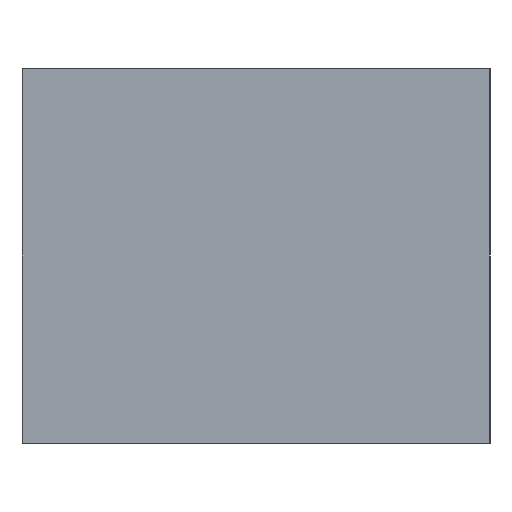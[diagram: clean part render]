
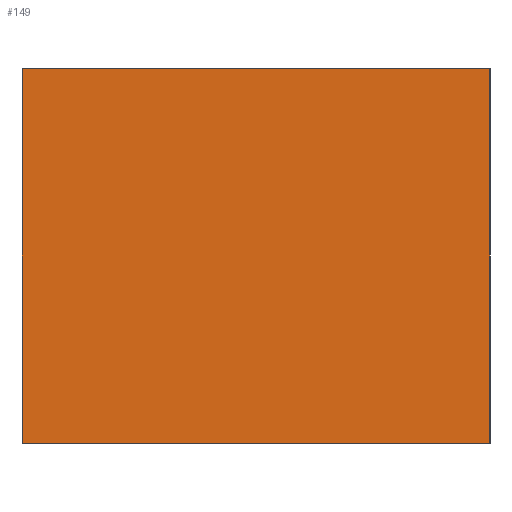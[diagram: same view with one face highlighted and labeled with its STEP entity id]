
A CAD part, left-side view. The second image highlights one B-rep face of the part: STEP entity #149.
In plain terms, the highlighted planar face has unit normal (-1, 0, 0).
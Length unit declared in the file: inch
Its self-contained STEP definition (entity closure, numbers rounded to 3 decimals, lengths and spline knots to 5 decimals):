
#21=PLANE('',#175);
#29=FACE_OUTER_BOUND('',#37,.T.);
#37=EDGE_LOOP('',(#123,#124,#125,#126));
#53=LINE('',#246,#67);
#54=LINE('',#249,#68);
#55=LINE('',#251,#69);
#56=LINE('',#252,#70);
#67=VECTOR('',#205,0.3937);
#68=VECTOR('',#208,0.3937);
#69=VECTOR('',#209,0.3937);
#70=VECTOR('',#210,0.3937);
#85=VERTEX_POINT('',#242);
#86=VERTEX_POINT('',#244);
#87=VERTEX_POINT('',#248);
#88=VERTEX_POINT('',#250);
#101=EDGE_CURVE('',#85,#86,#53,.T.);
#102=EDGE_CURVE('',#85,#87,#54,.T.);
#103=EDGE_CURVE('',#88,#86,#55,.T.);
#104=EDGE_CURVE('',#87,#88,#56,.T.);
#123=ORIENTED_EDGE('',*,*,#102,.F.);
#124=ORIENTED_EDGE('',*,*,#101,.T.);
#125=ORIENTED_EDGE('',*,*,#103,.F.);
#126=ORIENTED_EDGE('',*,*,#104,.F.);
#149=ADVANCED_FACE('',(#29),#21,.T.);
#175=AXIS2_PLACEMENT_3D('',#247,#206,#207);
#205=DIRECTION('',(0.,0.,-1.));
#206=DIRECTION('center_axis',(-1.,0.,0.));
#207=DIRECTION('ref_axis',(0.,1.,0.));
#208=DIRECTION('',(0.,-1.,0.));
#209=DIRECTION('',(0.,1.,0.));
#210=DIRECTION('',(0.,0.,-1.));
#242=CARTESIAN_POINT('',(-0.56963,2.98932,1.875));
#244=CARTESIAN_POINT('',(-0.56963,2.98932,1.675));
#246=CARTESIAN_POINT('',(-0.56963,2.98932,1.875));
#247=CARTESIAN_POINT('Origin',(-0.56963,2.73932,1.875));
#248=CARTESIAN_POINT('',(-0.56963,2.73932,1.875));
#249=CARTESIAN_POINT('',(-0.56963,2.98932,1.875));
#250=CARTESIAN_POINT('',(-0.56963,2.73932,1.675));
#251=CARTESIAN_POINT('',(-0.56963,2.98932,1.675));
#252=CARTESIAN_POINT('',(-0.56963,2.73932,1.875));
